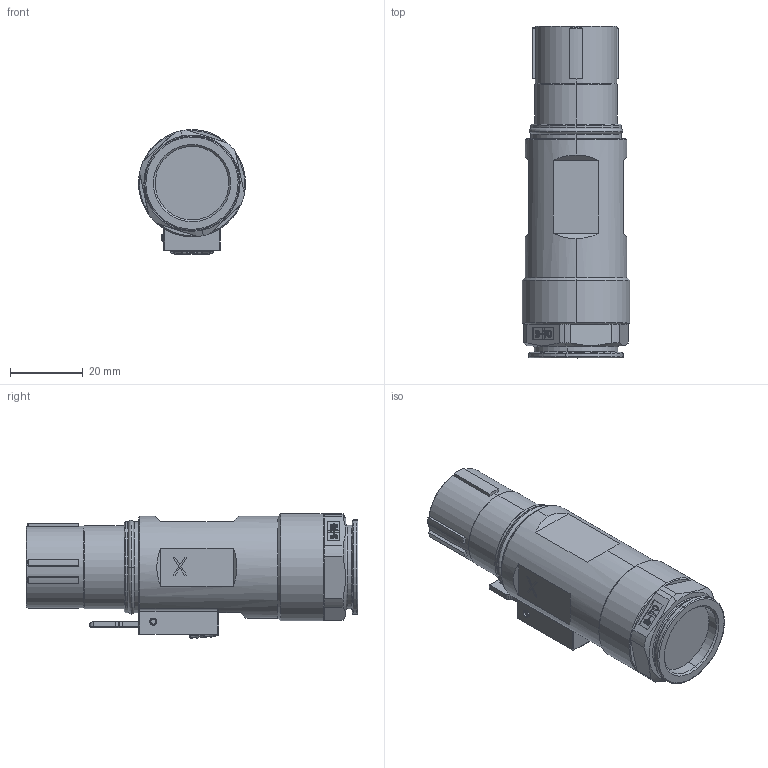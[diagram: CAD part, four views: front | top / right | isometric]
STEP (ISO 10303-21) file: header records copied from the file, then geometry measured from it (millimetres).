
FILE_DESCRIPTION (( 'STEP AP214' ), '1' );
FILE_NAME ('PL18-300.STEP', '2016-09-29T10:23:58', ( '' ), ( '' ), 'SwSTEP 2.0', 'SolidWorks 2014', '' );
FILE_SCHEMA (( 'AUTOMOTIVE_DESIGN' ));
Length unit declared in the file: millimetre
Products named in the file (1): PL18-300
Bounding box: 29.5 x 91.3 x 34.38 mm (x, y, z)
Volume: 49114 mm3; surface area: 12704.8 mm2
Topology: 2 solids, 2 shells, 416 faces, 1026 edges, 654 vertices
Faces by surface type: plane 230, cylinder 86, cone 41, torus 32, bspline 27
Entity records: 18852 total; most frequent: CARTESIAN_POINT 4627, ORIENTED_EDGE 2052, DIRECTION 1942, EDGE_CURVE 1026, AXIS2_PLACEMENT_3D 659, VERTEX_POINT 654, VECTOR 624, LINE 624
